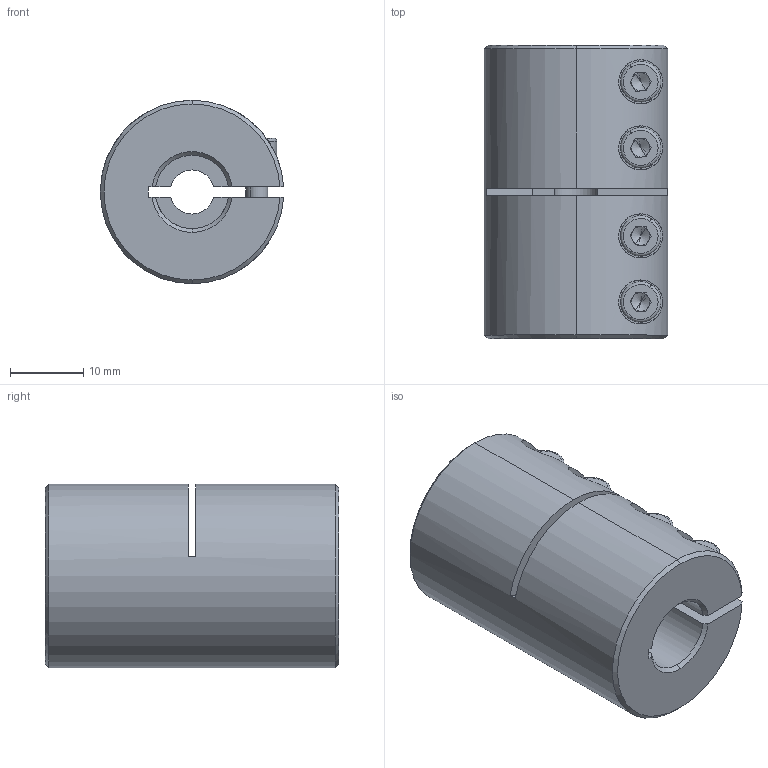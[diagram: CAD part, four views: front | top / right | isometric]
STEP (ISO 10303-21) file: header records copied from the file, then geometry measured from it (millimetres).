
FILE_DESCRIPTION (( 'STEP AP214' ), '1' );
FILE_NAME ('LL-B-D25L40-6-10½¨Ä£.STEP', '2022-07-21T05:09:27', ( '' ), ( '' ), 'SwSTEP 2.0', 'SolidWorks 2022', '' );
FILE_SCHEMA (( 'AUTOMOTIVE_DESIGN' ));
Length unit declared in the file: millimetre
Products named in the file (1): LL-B-D25L40-6-10膘耀
Bounding box: 24.98 x 40 x 25 mm (x, y, z)
Volume: 16405.2 mm3; surface area: 7152.6 mm2
Topology: 1 solids, 1 shells, 178 faces, 455 edges, 287 vertices
Faces by surface type: plane 85, cylinder 65, cone 20, torus 8
Entity records: 5838 total; most frequent: CARTESIAN_POINT 1437, DIRECTION 946, ORIENTED_EDGE 894, EDGE_CURVE 447, AXIS2_PLACEMENT_3D 364, VERTEX_POINT 287, LINE 218, VECTOR 218
